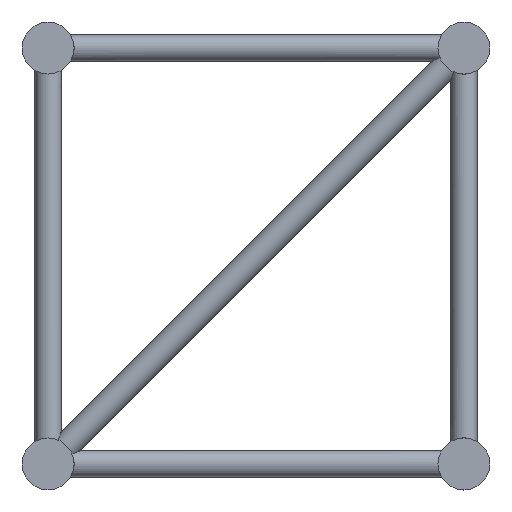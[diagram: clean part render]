
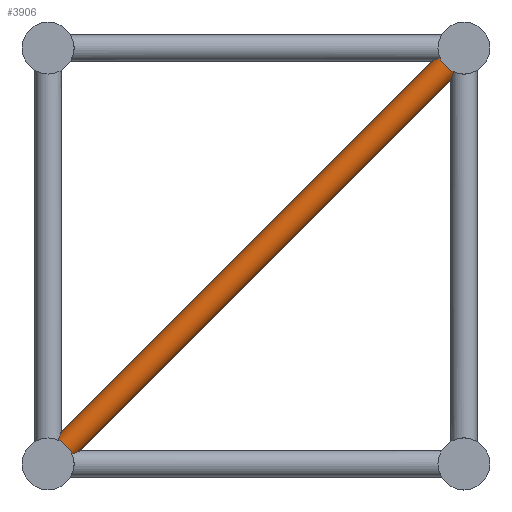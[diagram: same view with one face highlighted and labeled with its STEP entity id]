
A CAD part, left-side view. The second image highlights one B-rep face of the part: STEP entity #3906.
In plain terms, the highlighted cylindrical face has radius 15 mm (diameter 30 mm), a full revolution.
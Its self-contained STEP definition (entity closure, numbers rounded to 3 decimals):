
#370=FACE_BOUND('',#960,.T.);
#600=CYLINDRICAL_SURFACE('',#4265,15.);
#705=FACE_OUTER_BOUND('',#959,.T.);
#959=EDGE_LOOP('',(#2576,#2577,#2578,#2579));
#960=EDGE_LOOP('',(#2580,#2581,#2582,#2583));
#1313=CIRCLE('',#4267,15.);
#1314=CIRCLE('',#4269,15.);
#1315=CIRCLE('',#4271,15.);
#1316=CIRCLE('',#4273,15.);
#1488=ELLIPSE('',#4266,39.197,15.);
#1489=ELLIPSE('',#4268,39.197,15.);
#1490=ELLIPSE('',#4270,39.197,15.);
#1491=ELLIPSE('',#4272,39.197,15.);
#1610=VERTEX_POINT('',#6542);
#1611=VERTEX_POINT('',#6543);
#1612=VERTEX_POINT('',#6545);
#1613=VERTEX_POINT('',#6547);
#1614=VERTEX_POINT('',#6550);
#1615=VERTEX_POINT('',#6551);
#1616=VERTEX_POINT('',#6553);
#1617=VERTEX_POINT('',#6555);
#1994=EDGE_CURVE('',#1610,#1611,#1488,.T.);
#1995=EDGE_CURVE('',#1612,#1610,#1313,.T.);
#1996=EDGE_CURVE('',#1613,#1612,#1489,.T.);
#1997=EDGE_CURVE('',#1611,#1613,#1314,.T.);
#1998=EDGE_CURVE('',#1614,#1615,#1490,.T.);
#1999=EDGE_CURVE('',#1616,#1614,#1315,.T.);
#2000=EDGE_CURVE('',#1617,#1616,#1491,.T.);
#2001=EDGE_CURVE('',#1615,#1617,#1316,.T.);
#2576=ORIENTED_EDGE('',*,*,#1994,.F.);
#2577=ORIENTED_EDGE('',*,*,#1995,.F.);
#2578=ORIENTED_EDGE('',*,*,#1996,.F.);
#2579=ORIENTED_EDGE('',*,*,#1997,.F.);
#2580=ORIENTED_EDGE('',*,*,#1998,.F.);
#2581=ORIENTED_EDGE('',*,*,#1999,.F.);
#2582=ORIENTED_EDGE('',*,*,#2000,.F.);
#2583=ORIENTED_EDGE('',*,*,#2001,.F.);
#3906=ADVANCED_FACE('',(#705,#370),#600,.T.);
#4265=AXIS2_PLACEMENT_3D('',#6541,#4930,#4931);
#4266=AXIS2_PLACEMENT_3D('',#6544,#4932,#4933);
#4267=AXIS2_PLACEMENT_3D('',#6546,#4934,#4935);
#4268=AXIS2_PLACEMENT_3D('',#6548,#4936,#4937);
#4269=AXIS2_PLACEMENT_3D('',#6549,#4938,#4939);
#4270=AXIS2_PLACEMENT_3D('',#6552,#4940,#4941);
#4271=AXIS2_PLACEMENT_3D('',#6554,#4942,#4943);
#4272=AXIS2_PLACEMENT_3D('',#6556,#4944,#4945);
#4273=AXIS2_PLACEMENT_3D('',#6557,#4946,#4947);
#4930=DIRECTION('center_axis',(0.,-0.707,
0.707));
#4931=DIRECTION('ref_axis',(0.,0.707,0.707));
#4932=DIRECTION('center_axis',(0.,0.383,
0.924));
#4933=DIRECTION('ref_axis',(0.,0.924,-0.383));
#4934=DIRECTION('center_axis',(0.,-0.707,
0.707));
#4935=DIRECTION('ref_axis',(0.,0.707,0.707));
#4936=DIRECTION('center_axis',(0.,-0.924,
-0.383));
#4937=DIRECTION('ref_axis',(0.,-0.383,0.924));
#4938=DIRECTION('center_axis',(0.,-0.707,
0.707));
#4939=DIRECTION('ref_axis',(0.,0.707,0.707));
#4940=DIRECTION('center_axis',(0.,0.924,0.383));
#4941=DIRECTION('ref_axis',(0.,-0.383,0.924));
#4942=DIRECTION('center_axis',(0.,0.707,-0.707));
#4943=DIRECTION('ref_axis',(0.,0.707,0.707));
#4944=DIRECTION('center_axis',(0.,-0.383,
-0.924));
#4945=DIRECTION('ref_axis',(0.,0.924,-0.383));
#4946=DIRECTION('center_axis',(0.,0.707,-0.707));
#4947=DIRECTION('ref_axis',(0.,0.707,0.707));
#6541=CARTESIAN_POINT('Origin',(95.,452.322,-452.322));
#6542=CARTESIAN_POINT('',(105.852,25.,-10.355));
#6543=CARTESIAN_POINT('',(84.148,25.,-10.355));
#6544=CARTESIAN_POINT('Origin',(95.,0.,0.));
#6545=CARTESIAN_POINT('',(105.852,10.355,-25.));
#6546=CARTESIAN_POINT('Origin',(95.,17.678,-17.678));
#6547=CARTESIAN_POINT('',(84.148,10.355,-25.));
#6548=CARTESIAN_POINT('Origin',(95.,0.,0.));
#6549=CARTESIAN_POINT('Origin',(95.,17.678,-17.678));
#6550=CARTESIAN_POINT('',(84.148,459.645,-445.));
#6551=CARTESIAN_POINT('',(105.852,459.645,-445.));
#6552=CARTESIAN_POINT('Origin',(95.,470.,-470.));
#6553=CARTESIAN_POINT('',(84.148,445.,-459.645));
#6554=CARTESIAN_POINT('Origin',(95.,452.322,-452.322));
#6555=CARTESIAN_POINT('',(105.852,445.,-459.645));
#6556=CARTESIAN_POINT('Origin',(95.,470.,-470.));
#6557=CARTESIAN_POINT('Origin',(95.,452.322,-452.322));
